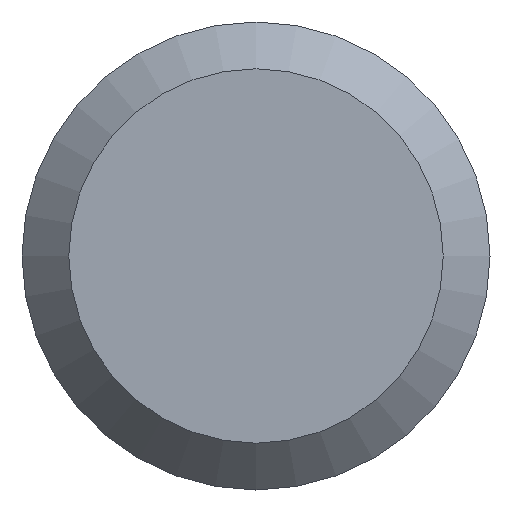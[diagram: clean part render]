
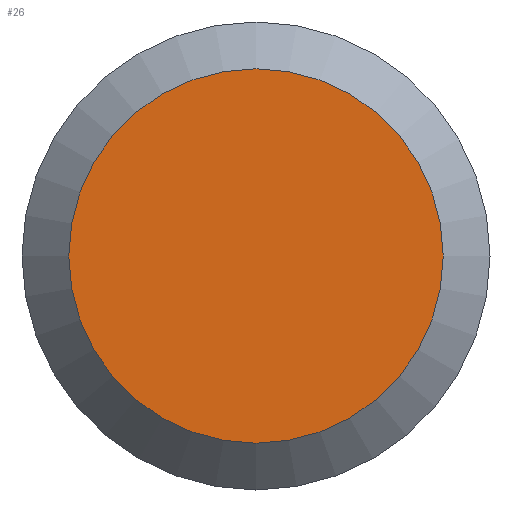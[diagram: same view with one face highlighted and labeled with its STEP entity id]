
A CAD part, left-side view. The second image highlights one B-rep face of the part: STEP entity #26.
In plain terms, the highlighted planar face has unit normal (-1, 0, 0).
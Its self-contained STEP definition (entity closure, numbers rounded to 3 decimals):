
#1 = VERTEX_POINT ( 'NONE', #189 ) ;
#17 = FACE_OUTER_BOUND ( 'NONE', #28, .T. ) ;
#26 = ADVANCED_FACE ( 'NONE', ( #17 ), #85, .F. ) ;
#28 = EDGE_LOOP ( 'NONE', ( #44 ) ) ;
#44 = ORIENTED_EDGE ( 'NONE', *, *, #125, .T. ) ;
#66 = DIRECTION ( 'NONE',  ( 0., 0., -1. ) ) ;
#68 = DIRECTION ( 'NONE',  ( 1., 0., 0. ) ) ;
#69 = DIRECTION ( 'NONE',  ( -1., 0., 0. ) ) ;
#85 = PLANE ( 'NONE',  #112 ) ;
#99 = DIRECTION ( 'NONE',  ( 0., 0., -1. ) ) ;
#112 = AXIS2_PLACEMENT_3D ( 'NONE', #158, #68, #66 ) ;
#120 = CARTESIAN_POINT ( 'NONE',  ( 0., 0., 0. ) ) ;
#125 = EDGE_CURVE ( 'NONE', #1, #1, #168, .T. ) ;
#158 = CARTESIAN_POINT ( 'NONE',  ( 0., 3., 0. ) ) ;
#168 = CIRCLE ( 'NONE', #179, 2.4 ) ;
#179 = AXIS2_PLACEMENT_3D ( 'NONE', #120, #69, #99 ) ;
#189 = CARTESIAN_POINT ( 'NONE',  ( 0., 0., -2.4 ) ) ;
